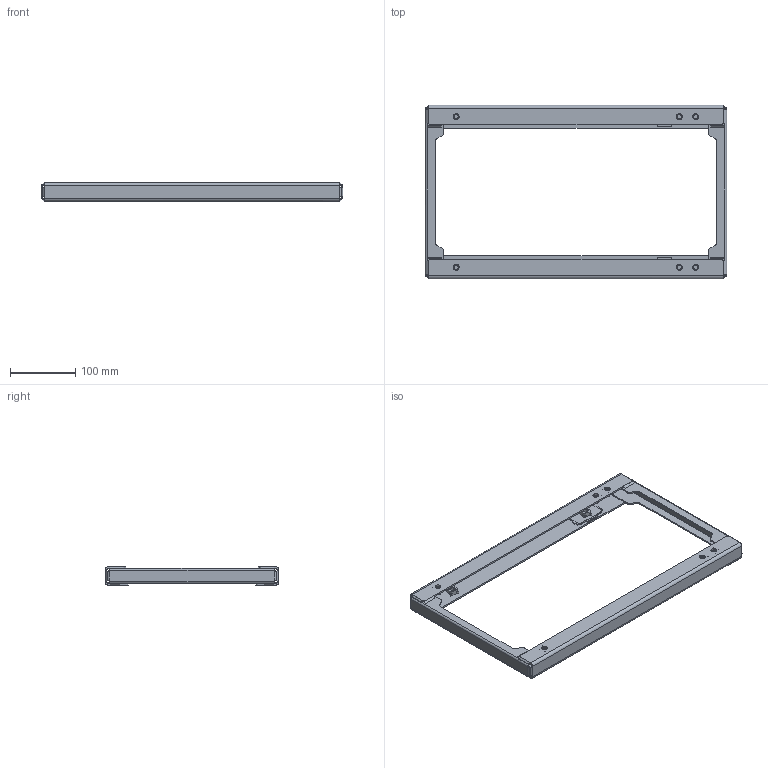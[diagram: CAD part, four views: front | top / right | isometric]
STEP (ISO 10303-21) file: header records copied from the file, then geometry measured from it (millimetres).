
FILE_DESCRIPTION(('CATIA V5 STEP Exchange'),'2;1');
FILE_NAME('E:\吉利商用车G3\3D\新开件\焊接总成\SHT0015270.stp','2022-12-21T02:46:25+00:00',('none'),('none'),'CATIA Version 5 Release 20 GA (IN-10)','CATIA V5 STEP AP214','none');
FILE_SCHEMA(('AUTOMOTIVE_DESIGN { 1 0 10303 214 1 1 1 1 }'));
Length unit declared in the file: millimetre
Products named in the file (1): SHT0015270
Bounding box: 460.5 x 265.04 x 29.11 mm (x, y, z)
Volume: 265295.4 mm3; surface area: 238052.9 mm2
Topology: 42 solids, 42 shells, 1000 faces, 2652 edges, 1736 vertices
Faces by surface type: plane 568, cone 220, cylinder 172, extrusion 40
Entity records: 32956 total; most frequent: CARTESIAN_POINT 9849, ORIENTED_EDGE 5304, DIRECTION 3598, EDGE_CURVE 2652, VERTEX_POINT 1736, VECTOR 1530, LINE 1490, AXIS2_PLACEMENT_3D 1219
